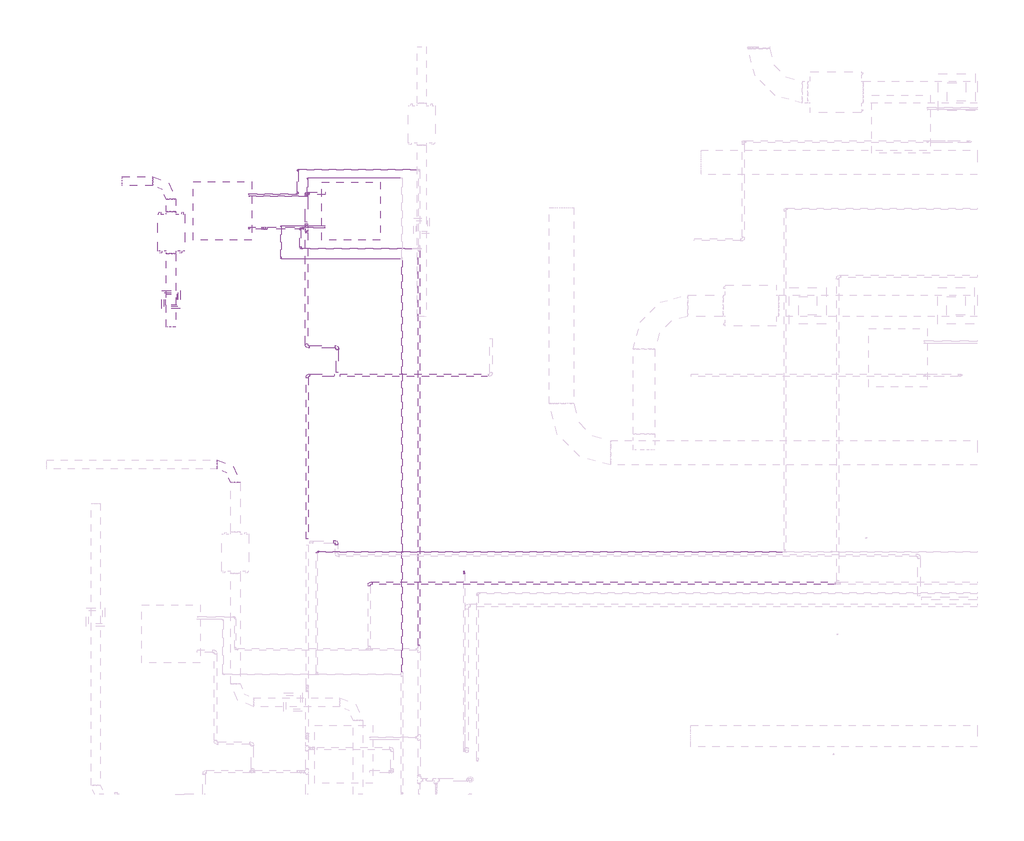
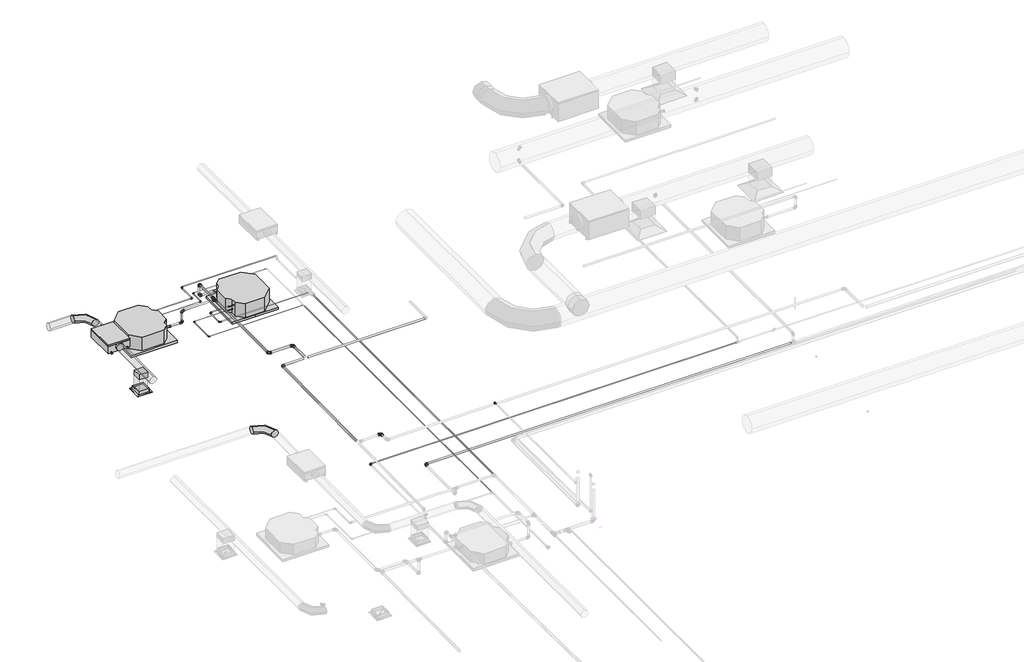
# One storey, part 13 of 21: 28 pipe fittings, 28 pipe segments, 4 duct fittings, 4 duct segments, 3 proxies, 1 air terminal.
"""IFC4 building model written with IfcOpenShell, lengths in millimetres."""

from ifc_helpers import new_model, si_unit, point, frame, frame_2d, origin, place, context, project, spatial, polyline, circle_curve, trimmed, segment, composite_curve, outline, extrude, transform, mapped, element, save
from components import sdq3535_a75e83f7, mechanical_equipment_53173f38, fh_fh_150_19aaf5c2, duct_fitting_bc26a891, duct_fitting_72ff0d78, duct_fitting_2_d_e46ba55a, pipe_fitting_e2d793b1, pipe_fitting_535881cf, pipe_fitting_3e2a63ee, pipe_fitting_144f4440, pipe_fitting_103655aa, pipe_fitting_63a2771b, pipe_fitting_ec53ccd8, pipe_fitting_d7de274c, pipe_fitting_65edd11d, pipe_fitting_c900cfc2, pipe_fitting_16c020f5, pipe_fitting_0e110a5f, pipe_fitting_64d0e8e9, pipe_fitting_59d1f3e3, pipe_fitting_648138cd

model = new_model("IFC4")

# Units and contexts
model_context = context("Model", 3, world=origin())
ifc_project = project(units=[si_unit("LENGTHUNIT", "METRE", prefix="MILLI")], contexts=[model_context])

# Site, building, storey
site = spatial("IfcSite", under=ifc_project)
building = spatial("IfcBuilding", under=site)
storey = spatial("IfcBuildingStorey", under=building, Name="Nível 1", Elevation=0.0)

# Air terminal
placement = place(None, origin())
sdq3535_shape = sdq3535_a75e83f7(model_context)
element("IfcAirTerminal", 1, ObjectType="11 - Difusor Quadrado : SDQ3535", at=placement, inside=storey, context=model_context, shape_type="MappedRepresentation", body=[
    mapped(sdq3535_shape, transform((-11373.3060551, 4782.3090494, 3000.0), x_axis=(-1.0, 0.0, 0.0), y_axis=(0.0, -1.0, 0.0), z_axis=(0.0, 0.0, 1.0))),
])

# Proxies
mechanical_equipment_shape = mechanical_equipment_53173f38(model_context)
element("IfcBuildingElementProxy", 2, Name="Midea_VRF_Indoor_4-way Cassette_MI-90(100,112,140)Q4_DHN1-D (2nd DC) : MI2-140Q4DHN1", ObjectType="Midea_VRF_Indoor_4-way Cassette_MI-90(100,112,140)Q4_DHN1-D (2nd DC) : MI2-140Q4DHN1", at=placement, inside=storey, context=model_context, shape_type="MappedRepresentation", body=[
    mapped(mechanical_equipment_shape, transform((-8436.7915174, 6227.977433, 3000.0), x_axis=(-1.0, 0.0, 0.0), y_axis=(0.0, -1.0, 0.0), z_axis=(0.0, 0.0, 1.0))),
])
element("IfcBuildingElementProxy", 3, Name="Midea_VRF_Indoor_4-way Cassette_MI-90(100,112,140)Q4_DHN1-D (2nd DC) : MI2-140Q4DHN1", ObjectType="Midea_VRF_Indoor_4-way Cassette_MI-90(100,112,140)Q4_DHN1-D (2nd DC) : MI2-140Q4DHN1", at=placement, inside=storey, context=model_context, shape_type="MappedRepresentation", body=[
    mapped(mechanical_equipment_shape, transform((-10533.2559835, 6231.5129669, 3000.0), x_axis=(1.0, 0.0, 0.0), y_axis=(0.0, 1.0, 0.0), z_axis=(0.0, 0.0, 1.0))),
])
fh_fh_150_shape = fh_fh_150_19aaf5c2(model_context)
element("IfcBuildingElementProxy", 4, Name="FH : FH 150", ObjectType="FH : FH 150", at=placement, inside=storey, context=model_context, shape_type="MappedRepresentation", body=[
    mapped(fh_fh_150_shape, transform((-11373.3060551, 5874.7087149, 3400.0), x_axis=(-1.0, 0.0, 0.0), y_axis=(0.0, -1.0, 0.0), z_axis=(0.0, 0.0, 1.0))),
])

# Duct fittings
duct_fitting_shape = duct_fitting_bc26a891(model_context)
element("IfcDuctFitting", 5, ObjectType="M_Encaixe de duto retangular : Padrão", at=placement, inside=storey, context=model_context, shape_type="MappedRepresentation", body=[
    mapped(duct_fitting_shape, transform((-11373.3060551, 4782.3090494, 3418.5), x_axis=(0.0, 0.0, -1.0), y_axis=(0.0, 1.0, 0.0), z_axis=(1.0, 0.0, 0.0))),
])
duct_fitting_2_shape = duct_fitting_72ff0d78(model_context)
element("IfcDuctFitting", 6, ObjectType="M_Transição retangular - Ângulo : 45 Graus", at=placement, inside=storey, context=model_context, shape_type="MappedRepresentation", body=[
    mapped(duct_fitting_2_shape, transform((-11373.3060551, 4782.3090494, 3005.0), x_axis=(0.0, 0.0, 1.0), y_axis=(0.0, -1.0, 0.0), z_axis=(1.0, 0.0, 0.0))),
])
duct_fitting_2_d_shape = duct_fitting_2_d_e46ba55a(model_context)
element("IfcDuctFitting", 7, ObjectType="M_Cotovelo redondo : 2 D", at=placement, inside=storey, context=model_context, shape_type="MappedRepresentation", body=[
    mapped(duct_fitting_2_d_shape, transform((-11373.3060551, 6716.7087149, 3493.0), x_axis=(0.0, 1.0, 0.0), y_axis=(-1.0, 0.0, 0.0), z_axis=(0.0, 0.0, 1.0))),
])
element("IfcDuctFitting", 8, ObjectType="M_Cotovelo redondo : 2 D", at=placement, inside=storey, context=model_context, shape_type="MappedRepresentation", body=[
    mapped(duct_fitting_2_d_shape, transform((-10322.9288653, 2093.5577969, 3493.0), x_axis=(0.0, 1.0, 0.0), y_axis=(-1.0, 0.0, 0.0), z_axis=(0.0, 0.0, 1.0))),
])

# Duct segments
element("IfcDuctSegment", 9, ObjectType="Torneiras / Raio curto", at=placement, inside=storey, context=model_context, shape_type="SweptSolid", body=[
    extrude(outline(composite_curve([segment(trimmed(circle_curve(frame_2d((3493.0, -11373.3060551)), 74.5), [point((3493.0, -11298.8060551))], [point((3567.5, -11373.3060551))], False, "CARTESIAN"), True, "CONTINUOUS"), segment(trimmed(circle_curve(frame_2d((3493.0, -11373.3060551)), 74.5), [point((3567.5, -11373.3060551))], [point((3493.0, -11447.8060551))], False, "CARTESIAN"), True, "CONTINUOUS"), segment(trimmed(circle_curve(frame_2d((3493.0, -11373.3060551)), 74.5), [point((3493.0, -11447.8060551))], [point((3418.5, -11373.3060551))], False, "CARTESIAN"), True, "CONTINUOUS"), segment(trimmed(circle_curve(frame_2d((3493.0, -11373.3060551)), 74.5), [point((3418.5, -11373.3060551))], [point((3493.0, -11298.8060551))], False, "CARTESIAN"), True, "CONTINUOUS")], self_intersect=False)), frame((0.0, 6216.7087149, 0.0), z_axis=(0.0, 1.0, 0.0), x_axis=(0.0, 0.0, 1.0)), (0.0, 0.0, 1.0), 202.0),
])
element("IfcDuctSegment", 10, ObjectType="Torneiras / Raio curto", at=placement, inside=storey, context=model_context, shape_type="SweptSolid", body=[
    extrude(outline(composite_curve([segment(trimmed(circle_curve(frame_2d((6716.7087149, 3493.0)), 74.5), [point((6791.2087149, 3493.0))], [point((6716.7087149, 3418.5))], False, "CARTESIAN"), True, "CONTINUOUS"), segment(trimmed(circle_curve(frame_2d((6716.7087149, 3493.0)), 74.5), [point((6716.7087149, 3418.5))], [point((6642.2087149, 3493.0))], False, "CARTESIAN"), True, "CONTINUOUS"), segment(trimmed(circle_curve(frame_2d((6716.7087149, 3493.0)), 74.5), [point((6642.2087149, 3493.0))], [point((6716.7087149, 3567.5))], False, "CARTESIAN"), True, "CONTINUOUS"), segment(trimmed(circle_curve(frame_2d((6716.7087149, 3493.0)), 74.5), [point((6716.7087149, 3567.5))], [point((6791.2087149, 3493.0))], False, "CARTESIAN"), True, "CONTINUOUS")], self_intersect=False)), frame((-12173.3060551, 0.0, 0.0), z_axis=(1.0, 0.0, 0.0), x_axis=(0.0, 1.0, 0.0)), (0.0, 0.0, 1.0), 502.0),
])
element("IfcDuctSegment", 11, ObjectType="Torneiras / Raio curto", at=placement, inside=storey, context=model_context, shape_type="SweptSolid", body=[
    extrude(outline(composite_curve([segment(trimmed(circle_curve(frame_2d((3493.0, -11373.3060551)), 74.5), [point((3493.0, -11447.8060551))], [point((3418.5, -11373.3060551))], False, "CARTESIAN"), True, "CONTINUOUS"), segment(trimmed(circle_curve(frame_2d((3493.0, -11373.3060551)), 74.5), [point((3418.5, -11373.3060551))], [point((3493.0, -11298.8060551))], False, "CARTESIAN"), True, "CONTINUOUS"), segment(trimmed(circle_curve(frame_2d((3493.0, -11373.3060551)), 74.5), [point((3493.0, -11298.8060551))], [point((3567.5, -11373.3060551))], False, "CARTESIAN"), True, "CONTINUOUS"), segment(trimmed(circle_curve(frame_2d((3493.0, -11373.3060551)), 74.5), [point((3567.5, -11373.3060551))], [point((3493.0, -11447.8060551))], False, "CARTESIAN"), True, "CONTINUOUS")], self_intersect=False)), frame((0.0, 4332.7087149, 0.0), z_axis=(0.0, 1.0, 0.0), x_axis=(0.0, 0.0, 1.0)), (0.0, 0.0, 1.0), 1200.0),
])
element("IfcDuctSegment", 12, ObjectType="Raios cotovelos / torneiras", at=placement, inside=storey, context=model_context, shape_type="SweptSolid", body=[
    extrude(outline(polyline([(-11463.3060551, 4692.3090494), (-11463.3060551, 4872.3090494), (-11283.3060551, 4872.3090494), (-11283.3060551, 4692.3090494), (-11463.3060551, 4692.3090494)])), frame((0.0, 0.0, 3059.3198052), z_axis=(0.0, 0.0, 1.0), x_axis=(1.0, 0.0, 0.0)), (0.0, 0.0, 1.0), 257.5801948),
])

# Pipe fittings
pipe_fitting_shape = pipe_fitting_e2d793b1(model_context)
element("IfcPipeFitting", 13, ObjectType="Bucha de redução reta - Soldada - CU : Padrão", at=placement, inside=storey, context=model_context, shape_type="MappedRepresentation", body=[
    mapped(pipe_fitting_shape, transform((-10108.2559835, 5946.5129669, 3252.3085101), x_axis=(1.0, 0.0, 0.0), y_axis=(0.0, 1.0, 0.0), z_axis=(0.0, 0.0, 1.0))),
])
pipe_fitting_2_shape = pipe_fitting_535881cf(model_context)
element("IfcPipeFitting", 14, ObjectType="Cotovelo - Soldado - CU : Padrão", at=placement, inside=storey, context=model_context, shape_type="MappedRepresentation", body=[
    mapped(pipe_fitting_2_shape, transform((-9153.185193, 3547.5971186, 3510.7989201), x_axis=(-1.0, 0.0, 0.0), y_axis=(0.0, -0.9999500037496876, -0.009999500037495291), z_axis=(0.0, -0.009999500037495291, 0.9999500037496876))),
])
element("IfcPipeFitting", 15, ObjectType="Cotovelo - Soldado - CU : Padrão", at=placement, inside=storey, context=model_context, shape_type="MappedRepresentation", body=[
    mapped(pipe_fitting_2_shape, transform((-9848.2559836, 5946.5129669, 3508.3991601), x_axis=(0.0, 0.0, 1.0), y_axis=(1.0, 0.0, 0.0), z_axis=(0.0, 1.0, 0.0))),
])
pipe_fitting_3_shape = pipe_fitting_3e2a63ee(model_context)
element("IfcPipeFitting", 16, ObjectType="Tê - Soldado - CU : Padrão", at=placement, inside=storey, context=model_context, shape_type="MappedRepresentation", body=[
    mapped(pipe_fitting_3_shape, transform((-9161.7915172, 5946.5129669, 3508.3991601), x_axis=(0.0, 1.0, 0.0), y_axis=(1.0, 0.0, 0.0), z_axis=(0.0, 0.0, -1.0))),
])
pipe_fitting_4_shape = pipe_fitting_144f4440(model_context)
element("IfcPipeFitting", 17, ObjectType="Cotovelo - PVC - CW : Padrão", at=placement, inside=storey, context=model_context, shape_type="MappedRepresentation", body=[
    mapped(pipe_fitting_4_shape, transform((-9161.7915172, 6512.977433, 3508.3991601), x_axis=(0.0, 0.0, 1.0), y_axis=(0.0, -1.0, 0.0), z_axis=(1.0, 0.0, 0.0))),
])
element("IfcPipeFitting", 18, ObjectType="Cotovelo - PVC - CW : Padrão", at=placement, inside=storey, context=model_context, shape_type="MappedRepresentation", body=[
    mapped(pipe_fitting_4_shape, transform((-9161.7915172, 4012.977433, 3508.3991601), x_axis=(0.0, -1.0, 0.0), y_axis=(1.0, 0.0, 0.0), z_axis=(0.0, 0.0, 1.0))),
])
element("IfcPipeFitting", 19, ObjectType="Cotovelo - PVC - CW : Padrão", at=placement, inside=storey, context=model_context, shape_type="MappedRepresentation", body=[
    mapped(pipe_fitting_4_shape, transform((-8661.7915172, 4012.977433, 3508.3991601), x_axis=(0.0, 1.0, 0.0), y_axis=(-1.0, 0.0, 0.0), z_axis=(0.0, 0.0, 1.0))),
])
element("IfcPipeFitting", 20, ObjectType="Cotovelo - PVC - CW : Padrão", at=placement, inside=storey, context=model_context, shape_type="MappedRepresentation", body=[
    mapped(pipe_fitting_4_shape, transform((-8672.0832008, 826.0615245, 3500.4499775), x_axis=(0.0, 1.0, 0.0), y_axis=(-0.9987552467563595, 0.0, -0.04987942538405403), z_axis=(-0.04987942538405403, 0.0, 0.9987552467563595))),
])
pipe_fitting_5_shape = pipe_fitting_103655aa(model_context)
element("IfcPipeFitting", 21, ObjectType="Cotovelo - PVC - CW : Padrão", at=placement, inside=storey, context=model_context, shape_type="MappedRepresentation", body=[
    mapped(pipe_fitting_5_shape, transform((-9161.7915172, 6512.977433, 3252.3), x_axis=(-0.9999999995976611, 0.0, -2.8366844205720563e-05), y_axis=(-2.8366844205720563e-05, 0.0, 0.9999999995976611), z_axis=(0.0, 1.0, 0.0))),
])
pipe_fitting_6_shape = pipe_fitting_63a2771b(model_context)
element("IfcPipeFitting", 22, ObjectType="Cotovelo - Soldado - CU : Padrão", at=placement, inside=storey, context=model_context, shape_type="MappedRepresentation", body=[
    mapped(pipe_fitting_6_shape, transform((-9848.2559836, 5946.5129669, 3252.3), x_axis=(0.9999999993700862, 0.0, -3.5494049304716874e-05), y_axis=(3.5494049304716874e-05, 0.0, 0.9999999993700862), z_axis=(0.0, -1.0, 0.0))),
])
pipe_fitting_7_shape = pipe_fitting_ec53ccd8(model_context)
element("IfcPipeFitting", 23, ObjectType="Bucha de redução reta - Soldada - CU : Padrão", at=placement, inside=storey, context=model_context, shape_type="MappedRepresentation", body=[
    mapped(pipe_fitting_7_shape, transform((-9161.7915172, 5899.7629669, 3505.9994001), x_axis=(0.0, -1.0, 0.0), y_axis=(1.0, 0.0, 0.0), z_axis=(0.0, 0.0, 1.0))),
])
pipe_fitting_8_shape = pipe_fitting_d7de274c(model_context)
element("IfcPipeFitting", 24, ObjectType="Redutor de acoplamento - PVC - CW : Padrão", at=placement, inside=storey, context=model_context, shape_type="MappedRepresentation", body=[
    mapped(pipe_fitting_8_shape, transform((-9161.7915172, 5993.2629669, 3508.3991601), x_axis=(0.0, 1.0, 0.0), y_axis=(-1.0, 0.0, 0.0), z_axis=(0.0, 0.0, 1.0))),
])
pipe_fitting_9_shape = pipe_fitting_65edd11d(model_context)
element("IfcPipeFitting", 25, ObjectType="Cotovelo - Soldado - CU : Padrão", at=placement, inside=storey, context=model_context, shape_type="MappedRepresentation", body=[
    mapped(pipe_fitting_9_shape, transform((-8139.9913078, 153.7608365, 3052.3), x_axis=(-1.0, 0.0, 0.0), y_axis=(0.0, -1.0, 0.0), z_axis=(0.0, 0.0, 1.0))),
])
pipe_fitting_10_shape = pipe_fitting_c900cfc2(model_context)
element("IfcPipeFitting", 26, ObjectType="Bucha de redução reta - Soldada - CU : Padrão", at=placement, inside=storey, context=model_context, shape_type="MappedRepresentation", body=[
    mapped(pipe_fitting_10_shape, transform((-8861.7915174, 5954.7666194, 3252.3085101), x_axis=(-1.0, 0.0, 0.0), y_axis=(0.0, -1.0, 0.0), z_axis=(0.0, 0.0, 1.0))),
])
element("IfcPipeFitting", 27, ObjectType="Bucha de redução reta - Soldada - CU : Padrão", at=placement, inside=storey, context=model_context, shape_type="MappedRepresentation", body=[
    mapped(pipe_fitting_10_shape, transform((-10108.2559835, 6504.7237806, 3252.3085101), x_axis=(1.0, 0.0, 0.0), y_axis=(0.0, 1.0, 0.0), z_axis=(0.0, 0.0, 1.0))),
])
pipe_fitting_11_shape = pipe_fitting_16c020f5(model_context)
element("IfcPipeFitting", 28, ObjectType="Cotovelo - Soldado - CU : Padrão", at=placement, inside=storey, context=model_context, shape_type="MappedRepresentation", body=[
    mapped(pipe_fitting_11_shape, transform((-6589.5432355, 348.015561, 3752.3), x_axis=(0.0, 0.0, 1.0), y_axis=(0.0, -1.0, 0.0), z_axis=(1.0, 0.0, 0.0))),
])
element("IfcPipeFitting", 29, ObjectType="Cotovelo - Soldado - CU : Padrão", at=placement, inside=storey, context=model_context, shape_type="MappedRepresentation", body=[
    mapped(pipe_fitting_11_shape, transform((-9261.7915173, 5954.7666194, 3252.3), x_axis=(-0.99999999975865, 0.0, -2.1970437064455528e-05), y_axis=(0.0, -1.0, 0.0), z_axis=(-2.1970437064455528e-05, 0.0, 0.99999999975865))),
])
element("IfcPipeFitting", 30, ObjectType="Cotovelo - Soldado - CU : Padrão", at=placement, inside=storey, context=model_context, shape_type="MappedRepresentation", body=[
    mapped(pipe_fitting_11_shape, transform((-9308.2559835, 6504.7237806, 3252.3), x_axis=(0.9999999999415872, 0.0, -1.0808597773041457e-05), y_axis=(0.0, 1.0000000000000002, 0.0), z_axis=(1.0808597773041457e-05, 0.0, 0.9999999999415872))),
])
element("IfcPipeFitting", 31, ObjectType="Cotovelo - Soldado - CU : Padrão", at=placement, inside=storey, context=model_context, shape_type="MappedRepresentation", body=[
    mapped(pipe_fitting_11_shape, transform((-9261.7915173, 5614.7666194, 3252.3), x_axis=(0.0, -1.0, 0.0), y_axis=(1.0, 0.0, 0.0), z_axis=(0.0, 0.0, 1.0))),
])
element("IfcPipeFitting", 32, ObjectType="Cotovelo - Soldado - CU : Padrão", at=placement, inside=storey, context=model_context, shape_type="MappedRepresentation", body=[
    mapped(pipe_fitting_11_shape, transform((-9308.2559835, 6904.7237806, 3252.3), x_axis=(-1.0, 0.0, 0.0), y_axis=(0.0, -1.0, 0.0), z_axis=(0.0, 0.0, 1.0))),
])
pipe_fitting_12_shape = pipe_fitting_0e110a5f(model_context)
element("IfcPipeFitting", 33, ObjectType="Cotovelo - Soldado - CU : Padrão", at=placement, inside=storey, context=model_context, shape_type="MappedRepresentation", body=[
    mapped(pipe_fitting_12_shape, transform((-8993.7078452, 666.0796084, 3046.8), x_axis=(-1.0, 0.0, 0.0), y_axis=(0.0, -1.0, 0.0), z_axis=(0.0, 0.0, 1.0))),
])
pipe_fitting_13_shape = pipe_fitting_64d0e8e9(model_context)
element("IfcPipeFitting", 34, ObjectType="Bucha de redução reta - Soldada - CU : Padrão", at=placement, inside=storey, context=model_context, shape_type="MappedRepresentation", body=[
    mapped(pipe_fitting_13_shape, transform((-6589.5432355, 319.036961, 3752.3), x_axis=(0.0, -1.0, 0.0), y_axis=(1.0, 0.0, 0.0), z_axis=(0.0, 0.0, 1.0))),
])
pipe_fitting_14_shape = pipe_fitting_59d1f3e3(model_context)
element("IfcPipeFitting", 35, ObjectType="Bucha de redução reta - Soldada - CU : Padrão", at=placement, inside=storey, context=model_context, shape_type="MappedRepresentation", body=[
    mapped(pipe_fitting_14_shape, transform((-8861.7915174, 5988.5690612, 3146.8446487), x_axis=(-1.0, 0.0, 0.0), y_axis=(0.0, -1.0, 0.0), z_axis=(0.0, 0.0, 1.0))),
])
element("IfcPipeFitting", 36, ObjectType="Bucha de redução reta - Soldada - CU : Padrão", at=placement, inside=storey, context=model_context, shape_type="MappedRepresentation", body=[
    mapped(pipe_fitting_14_shape, transform((-10108.2559835, 6470.9213388, 3146.8446487), x_axis=(1.0, 0.0, 0.0), y_axis=(0.0, 1.0, 0.0), z_axis=(0.0, 0.0, 1.0))),
])
pipe_fitting_15_shape = pipe_fitting_648138cd(model_context)
element("IfcPipeFitting", 37, ObjectType="Cotovelo - Soldado - CU : Padrão", at=placement, inside=storey, context=model_context, shape_type="MappedRepresentation", body=[
    mapped(pipe_fitting_15_shape, transform((-9581.791516, 5988.5690612, 3146.8), x_axis=(-0.9999999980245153, 0.0, -6.285673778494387e-05), y_axis=(0.0, -1.0000000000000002, 0.0), z_axis=(-6.285673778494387e-05, 0.0, 0.9999999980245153))),
])
element("IfcPipeFitting", 38, ObjectType="Cotovelo - Soldado - CU : Padrão", at=placement, inside=storey, context=model_context, shape_type="MappedRepresentation", body=[
    mapped(pipe_fitting_15_shape, transform((-9581.791516, 5448.5690612, 3146.8), x_axis=(0.0, -1.0, 0.0), y_axis=(0.9999999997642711, 0.0, 2.1713079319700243e-05), z_axis=(-2.1713079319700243e-05, 0.0, 0.9999999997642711))),
])
element("IfcPipeFitting", 39, ObjectType="Cotovelo - Soldado - CU : Padrão", at=placement, inside=storey, context=model_context, shape_type="MappedRepresentation", body=[
    mapped(pipe_fitting_15_shape, transform((-9148.2559845, 6470.9213388, 3146.8), x_axis=(0.9999999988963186, 0.0, -4.698258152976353e-05), y_axis=(0.0, 1.0000000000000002, 0.0), z_axis=(4.698258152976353e-05, 0.0, 0.9999999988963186))),
])
element("IfcPipeFitting", 40, ObjectType="Cotovelo - Soldado - CU : Padrão", at=placement, inside=storey, context=model_context, shape_type="MappedRepresentation", body=[
    mapped(pipe_fitting_15_shape, transform((-9148.2559845, 6770.9213388, 3146.8), x_axis=(-1.0, 0.0, 0.0), y_axis=(0.0, -1.0, 0.0), z_axis=(0.0, 0.0, 1.0))),
])

# Pipe segments
element("IfcPipeSegment", 41, ObjectType="Tubos de cobre HVAC", at=placement, inside=storey, context=model_context, shape_type="SweptSolid", body=[
    extrude(outline(composite_curve([segment(trimmed(circle_curve(frame_2d((3547.5971186, 3510.7989201)), 17.5), [point((3530.0971186, 3510.7989201))], [point((3547.5971186, 3528.2989201))], False, "CARTESIAN"), True, "CONTINUOUS"), segment(trimmed(circle_curve(frame_2d((3547.5971186, 3510.7989201)), 17.5), [point((3547.5971186, 3528.2989201))], [point((3565.0971186, 3510.7989201))], False, "CARTESIAN"), True, "CONTINUOUS"), segment(trimmed(circle_curve(frame_2d((3547.5971186, 3510.7989201)), 17.5), [point((3565.0971186, 3510.7989201))], [point((3547.5971186, 3493.2989201))], False, "CARTESIAN"), True, "CONTINUOUS"), segment(trimmed(circle_curve(frame_2d((3547.5971186, 3510.7989201)), 17.5), [point((3547.5971186, 3493.2989201))], [point((3530.0971186, 3510.7989201))], False, "CARTESIAN"), True, "CONTINUOUS")], self_intersect=False)), frame((-8615.8900172, 0.0, 0.0), z_axis=(1.0, 0.0, 0.0), x_axis=(0.0, 1.0, 0.0)), (0.0, 0.0, 1.0), 2421.1048242),
])
element("IfcPipeSegment", 42, ObjectType="Tubos de cobre HVAC", at=placement, inside=storey, context=model_context, shape_type="SweptSolid", body=[
    extrude(outline(composite_curve([segment(trimmed(circle_curve(frame_2d((0.0, 17.5)), 17.5), [point((17.5, 17.5))], [point((0.0, 0.0))], False, "CARTESIAN"), True, "CONTINUOUS"), segment(trimmed(circle_curve(frame_2d((0.0, 17.5)), 17.5), [point((0.0, 0.0))], [point((-17.5, 17.5))], False, "CARTESIAN"), True, "CONTINUOUS"), segment(trimmed(circle_curve(frame_2d((0.0, 17.5)), 17.5), [point((-17.5, 17.5))], [point((0.0, 35.0))], False, "CARTESIAN"), True, "CONTINUOUS"), segment(trimmed(circle_curve(frame_2d((0.0, 17.5)), 17.5), [point((0.0, 35.0))], [point((17.5, 17.5))], False, "CARTESIAN"), True, "CONTINUOUS")], self_intersect=False)), frame((-9153.185193, 871.7857384, 3501.5416813), z_axis=(0.0, 0.9999500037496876, 0.009999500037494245), x_axis=(1.0, 0.0, 0.0)), (0.0, 0.0, 1.0), 2634.1701675),
])
element("IfcPipeSegment", 43, ObjectType="Plástico", at=placement, inside=storey, context=model_context, shape_type="SweptSolid", body=[
    extrude(outline(composite_curve([segment(trimmed(circle_curve(frame_2d((0.0, -20.0)), 20.0), [point((-20.0, -20.0))], [point((0.0, 0.0))], False, "CARTESIAN"), True, "CONTINUOUS"), segment(trimmed(circle_curve(frame_2d((0.0, -20.0)), 20.0), [point((0.0, 0.0))], [point((20.0, -20.0))], False, "CARTESIAN"), True, "CONTINUOUS"), segment(trimmed(circle_curve(frame_2d((0.0, -20.0)), 20.0), [point((20.0, -20.0))], [point((0.0, -40.0))], False, "CARTESIAN"), True, "CONTINUOUS"), segment(trimmed(circle_curve(frame_2d((0.0, -20.0)), 20.0), [point((0.0, -40.0))], [point((-20.0, -20.0))], False, "CARTESIAN"), True, "CONTINUOUS")], self_intersect=False)), frame((-9116.7902975, 6512.977433, 3232.3012765), z_axis=(0.9999999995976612, 0.0, 2.8366844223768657e-05), x_axis=(0.0, -1.0, 0.0)), (0.0, 0.0, 1.0), 254.9993476),
])
element("IfcPipeSegment", 44, ObjectType="Plástico", at=placement, inside=storey, context=model_context, shape_type="SweptSolid", body=[
    extrude(outline(composite_curve([segment(trimmed(circle_curve(frame_2d((-9161.7915172, 6512.977433)), 20.0), [point((-9141.7915172, 6512.977433))], [point((-9161.7915172, 6492.977433))], False, "CARTESIAN"), True, "CONTINUOUS"), segment(trimmed(circle_curve(frame_2d((-9161.7915172, 6512.977433)), 20.0), [point((-9161.7915172, 6492.977433))], [point((-9181.7915172, 6512.977433))], False, "CARTESIAN"), True, "CONTINUOUS"), segment(trimmed(circle_curve(frame_2d((-9161.7915172, 6512.977433)), 20.0), [point((-9181.7915172, 6512.977433))], [point((-9161.7915172, 6532.977433))], False, "CARTESIAN"), True, "CONTINUOUS"), segment(trimmed(circle_curve(frame_2d((-9161.7915172, 6512.977433)), 20.0), [point((-9161.7915172, 6532.977433))], [point((-9141.7915172, 6512.977433))], False, "CARTESIAN"), True, "CONTINUOUS")], self_intersect=False)), frame((0.0, 0.0, 3297.3006524), z_axis=(0.0, 0.0, 1.0), x_axis=(1.0, 0.0, 0.0)), (0.0, 0.0, 1.0), 166.0985076),
])
element("IfcPipeSegment", 45, ObjectType="Plástico", at=placement, inside=storey, context=model_context, shape_type="SweptSolid", body=[
    extrude(outline(composite_curve([segment(trimmed(circle_curve(frame_2d((3508.3991601, -9161.7915172)), 20.0), [point((3508.3991601, -9181.7915172))], [point((3488.3991601, -9161.7915172))], False, "CARTESIAN"), True, "CONTINUOUS"), segment(trimmed(circle_curve(frame_2d((3508.3991601, -9161.7915172)), 20.0), [point((3488.3991601, -9161.7915172))], [point((3508.3991601, -9141.7915172))], False, "CARTESIAN"), True, "CONTINUOUS"), segment(trimmed(circle_curve(frame_2d((3508.3991601, -9161.7915172)), 20.0), [point((3508.3991601, -9141.7915172))], [point((3528.3991601, -9161.7915172))], False, "CARTESIAN"), True, "CONTINUOUS"), segment(trimmed(circle_curve(frame_2d((3508.3991601, -9161.7915172)), 20.0), [point((3528.3991601, -9161.7915172))], [point((3508.3991601, -9181.7915172))], False, "CARTESIAN"), True, "CONTINUOUS")], self_intersect=False)), frame((0.0, 4057.977433, 0.0), z_axis=(0.0, 1.0, 0.0), x_axis=(0.0, 0.0, 1.0)), (0.0, 0.0, 1.0), 1821.5455339),
])
element("IfcPipeSegment", 46, ObjectType="Plástico", at=placement, inside=storey, context=model_context, shape_type="SweptSolid", body=[
    extrude(outline(composite_curve([segment(trimmed(circle_curve(frame_2d((4012.977433, 3508.3991601)), 20.0), [point((3992.977433, 3508.3991601))], [point((4012.977433, 3528.3991601))], False, "CARTESIAN"), True, "CONTINUOUS"), segment(trimmed(circle_curve(frame_2d((4012.977433, 3508.3991601)), 20.0), [point((4012.977433, 3528.3991601))], [point((4032.977433, 3508.3991601))], False, "CARTESIAN"), True, "CONTINUOUS"), segment(trimmed(circle_curve(frame_2d((4012.977433, 3508.3991601)), 20.0), [point((4032.977433, 3508.3991601))], [point((4012.977433, 3488.3991601))], False, "CARTESIAN"), True, "CONTINUOUS"), segment(trimmed(circle_curve(frame_2d((4012.977433, 3508.3991601)), 20.0), [point((4012.977433, 3488.3991601))], [point((3992.977433, 3508.3991601))], False, "CARTESIAN"), True, "CONTINUOUS")], self_intersect=False)), frame((-9116.7915172, 0.0, 0.0), z_axis=(1.0, 0.0, 0.0), x_axis=(0.0, 1.0, 0.0)), (0.0, 0.0, 1.0), 410.0),
])
element("IfcPipeSegment", 47, ObjectType="Plástico", at=placement, inside=storey, context=model_context, shape_type="SweptSolid", body=[
    extrude(outline(composite_curve([segment(trimmed(circle_curve(frame_2d((3508.3991601, -8661.7915172)), 20.0), [point((3508.3991601, -8641.7915172))], [point((3528.3991601, -8661.7915172))], False, "CARTESIAN"), True, "CONTINUOUS"), segment(trimmed(circle_curve(frame_2d((3508.3991601, -8661.7915172)), 20.0), [point((3528.3991601, -8661.7915172))], [point((3508.3991601, -8681.7915172))], False, "CARTESIAN"), True, "CONTINUOUS"), segment(trimmed(circle_curve(frame_2d((3508.3991601, -8661.7915172)), 20.0), [point((3508.3991601, -8681.7915172))], [point((3488.3991601, -8661.7915172))], False, "CARTESIAN"), True, "CONTINUOUS"), segment(trimmed(circle_curve(frame_2d((3508.3991601, -8661.7915172)), 20.0), [point((3488.3991601, -8661.7915172))], [point((3508.3991601, -8641.7915172))], False, "CARTESIAN"), True, "CONTINUOUS")], self_intersect=False)), frame((0.0, 3593.0711162, 0.0), z_axis=(0.0, 1.0, 0.0), x_axis=(0.0, 0.0, 1.0)), (0.0, 0.0, 1.0), 374.9063168),
])
element("IfcPipeSegment", 48, ObjectType="Tubos de cobre HVAC", at=placement, inside=storey, context=model_context, shape_type="SweptSolid", body=[
    extrude(outline(composite_curve([segment(trimmed(circle_curve(frame_2d((3547.5971186, 3510.7989201)), 17.5), [point((3530.0971186, 3510.7989201))], [point((3547.5971186, 3528.2989201))], False, "CARTESIAN"), True, "CONTINUOUS"), segment(trimmed(circle_curve(frame_2d((3547.5971186, 3510.7989201)), 17.5), [point((3547.5971186, 3528.2989201))], [point((3565.0971186, 3510.7989201))], False, "CARTESIAN"), True, "CONTINUOUS"), segment(trimmed(circle_curve(frame_2d((3547.5971186, 3510.7989201)), 17.5), [point((3565.0971186, 3510.7989201))], [point((3547.5971186, 3493.2989201))], False, "CARTESIAN"), True, "CONTINUOUS"), segment(trimmed(circle_curve(frame_2d((3547.5971186, 3510.7989201)), 17.5), [point((3547.5971186, 3493.2989201))], [point((3530.0971186, 3510.7989201))], False, "CARTESIAN"), True, "CONTINUOUS")], self_intersect=False)), frame((-9111.585193, 0.0, 0.0), z_axis=(1.0, 0.0, 0.0), x_axis=(0.0, 1.0, 0.0)), (0.0, 0.0, 1.0), 403.8921758),
])
element("IfcPipeSegment", 49, ObjectType="Tubos de cobre HVAC", at=placement, inside=storey, context=model_context, shape_type="SweptSolid", body=[
    extrude(outline(composite_curve([segment(trimmed(circle_curve(frame_2d((0.0, -17.5)), 17.5), [point((-17.5, -17.5))], [point((0.0, 0.0))], False, "CARTESIAN"), True, "CONTINUOUS"), segment(trimmed(circle_curve(frame_2d((0.0, -17.5)), 17.5), [point((0.0, 0.0))], [point((17.5, -17.5))], False, "CARTESIAN"), True, "CONTINUOUS"), segment(trimmed(circle_curve(frame_2d((0.0, -17.5)), 17.5), [point((17.5, -17.5))], [point((0.0, -34.9999999))], False, "CARTESIAN"), True, "CONTINUOUS"), segment(trimmed(circle_curve(frame_2d((0.0, -17.5)), 17.5), [point((0.0, -34.9999999))], [point((-17.5, -17.5))], False, "CARTESIAN"), True, "CONTINUOUS")], self_intersect=False)), frame((-9889.8566047, 5946.5129669, 3234.8014766), z_axis=(-0.9999999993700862, 0.0, 3.549404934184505e-05), x_axis=(0.0, 1.0, 0.0)), (0.0, 0.0, 1.0), 198.16),
])
element("IfcPipeSegment", 50, ObjectType="Tubos de cobre HVAC", at=placement, inside=storey, context=model_context, shape_type="SweptSolid", body=[
    extrude(outline(composite_curve([segment(trimmed(circle_curve(frame_2d((-9848.2559836, 5946.5129669)), 17.5), [point((-9830.7559836, 5946.5129669))], [point((-9848.2559836, 5929.0129669))], False, "CARTESIAN"), True, "CONTINUOUS"), segment(trimmed(circle_curve(frame_2d((-9848.2559836, 5946.5129669)), 17.5), [point((-9848.2559836, 5929.0129669))], [point((-9865.7559836, 5946.5129669))], False, "CARTESIAN"), True, "CONTINUOUS"), segment(trimmed(circle_curve(frame_2d((-9848.2559836, 5946.5129669)), 17.5), [point((-9865.7559836, 5946.5129669))], [point((-9848.2559836, 5964.0129669))], False, "CARTESIAN"), True, "CONTINUOUS"), segment(trimmed(circle_curve(frame_2d((-9848.2559836, 5946.5129669)), 17.5), [point((-9848.2559836, 5964.0129669))], [point((-9830.7559836, 5946.5129669))], False, "CARTESIAN"), True, "CONTINUOUS")], self_intersect=False)), frame((0.0, 0.0, 3293.9), z_axis=(0.0, 0.0, 1.0), x_axis=(1.0, 0.0, 0.0)), (0.0, 0.0, 1.0), 172.8991601),
])
element("IfcPipeSegment", 51, ObjectType="Tubos de cobre HVAC", at=placement, inside=storey, context=model_context, shape_type="SweptSolid", body=[
    extrude(outline(composite_curve([segment(trimmed(circle_curve(frame_2d((5946.5129669, 3508.3991601)), 17.5), [point((5964.0129669, 3508.3991601))], [point((5946.5129669, 3490.8991601))], False, "CARTESIAN"), True, "CONTINUOUS"), segment(trimmed(circle_curve(frame_2d((5946.5129669, 3508.3991601)), 17.5), [point((5946.5129669, 3490.8991601))], [point((5929.0129669, 3508.3991601))], False, "CARTESIAN"), True, "CONTINUOUS"), segment(trimmed(circle_curve(frame_2d((5946.5129669, 3508.3991601)), 17.5), [point((5929.0129669, 3508.3991601))], [point((5946.5129669, 3525.8991601))], False, "CARTESIAN"), True, "CONTINUOUS"), segment(trimmed(circle_curve(frame_2d((5946.5129669, 3508.3991601)), 17.5), [point((5946.5129669, 3525.8991601))], [point((5964.0129669, 3508.3991601))], False, "CARTESIAN"), True, "CONTINUOUS")], self_intersect=False)), frame((-9806.6559836, 0.0, 0.0), z_axis=(1.0, 0.0, 0.0), x_axis=(0.0, 1.0, 0.0)), (0.0, 0.0, 1.0), 599.3644664),
])
element("IfcPipeSegment", 52, ObjectType="Plástico", at=placement, inside=storey, context=model_context, shape_type="SweptSolid", body=[
    extrude(outline(composite_curve([segment(trimmed(circle_curve(frame_2d((3508.3991601, -9161.7915172)), 20.0), [point((3508.3991601, -9181.7915172))], [point((3488.3991601, -9161.7915172))], False, "CARTESIAN"), True, "CONTINUOUS"), segment(trimmed(circle_curve(frame_2d((3508.3991601, -9161.7915172)), 20.0), [point((3488.3991601, -9161.7915172))], [point((3508.3991601, -9141.7915172))], False, "CARTESIAN"), True, "CONTINUOUS"), segment(trimmed(circle_curve(frame_2d((3508.3991601, -9161.7915172)), 20.0), [point((3508.3991601, -9141.7915172))], [point((3528.3991601, -9161.7915172))], False, "CARTESIAN"), True, "CONTINUOUS"), segment(trimmed(circle_curve(frame_2d((3508.3991601, -9161.7915172)), 20.0), [point((3528.3991601, -9161.7915172))], [point((3508.3991601, -9181.7915172))], False, "CARTESIAN"), True, "CONTINUOUS")], self_intersect=False)), frame((0.0, 6047.8289669, 0.0), z_axis=(0.0, 1.0, 0.0), x_axis=(0.0, 0.0, 1.0)), (0.0, 0.0, 1.0), 420.1484661),
])
element("IfcPipeSegment", 53, ObjectType="Tubos de cobre HVAC", at=placement, inside=storey, context=model_context, shape_type="SweptSolid", body=[
    extrude(outline(composite_curve([segment(trimmed(circle_curve(frame_2d((0.0, -7.935)), 7.935), [point((-7.935, -7.935))], [point((0.0, 0.0))], False, "CARTESIAN"), True, "CONTINUOUS"), segment(trimmed(circle_curve(frame_2d((0.0, -7.935)), 7.935), [point((0.0, 0.0))], [point((7.935, -7.935))], False, "CARTESIAN"), True, "CONTINUOUS"), segment(trimmed(circle_curve(frame_2d((0.0, -7.935)), 7.935), [point((7.935, -7.935))], [point((0.0, -15.87))], False, "CARTESIAN"), True, "CONTINUOUS"), segment(trimmed(circle_curve(frame_2d((0.0, -7.935)), 7.935), [point((0.0, -15.87))], [point((-7.935, -7.935))], False, "CARTESIAN"), True, "CONTINUOUS")], self_intersect=False)), frame((-9232.8127429, 5954.7666194, 3244.3656367), z_axis=(0.99999999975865, 0.0, 2.197043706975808e-05), x_axis=(0.0, -1.0, 0.0)), (0.0, 0.0, 1.0), 358.3625),
])
element("IfcPipeSegment", 54, ObjectType="Tubos de cobre HVAC", at=placement, inside=storey, context=model_context, shape_type="SweptSolid", body=[
    extrude(outline(composite_curve([segment(trimmed(circle_curve(frame_2d((3252.3, -9261.7915173)), 7.935), [point((3252.3, -9269.7265173))], [point((3244.365, -9261.7915173))], False, "CARTESIAN"), True, "CONTINUOUS"), segment(trimmed(circle_curve(frame_2d((3252.3, -9261.7915173)), 7.935), [point((3244.365, -9261.7915173))], [point((3252.3, -9253.8565173))], False, "CARTESIAN"), True, "CONTINUOUS"), segment(trimmed(circle_curve(frame_2d((3252.3, -9261.7915173)), 7.935), [point((3252.3, -9253.8565173))], [point((3260.235, -9261.7915173))], False, "CARTESIAN"), True, "CONTINUOUS"), segment(trimmed(circle_curve(frame_2d((3252.3, -9261.7915173)), 7.935), [point((3260.235, -9261.7915173))], [point((3252.3, -9269.7265173))], False, "CARTESIAN"), True, "CONTINUOUS")], self_intersect=False)), frame((0.0, 5643.7452194, 0.0), z_axis=(0.0, 1.0, 0.0), x_axis=(0.0, 0.0, 1.0)), (0.0, 0.0, 1.0), 282.0428),
])
element("IfcPipeSegment", 55, ObjectType="Tubos de cobre HVAC", at=placement, inside=storey, context=model_context, shape_type="SweptSolid", body=[
    extrude(outline(composite_curve([segment(trimmed(circle_curve(frame_2d((5614.7666194, 3252.3)), 7.935), [point((5606.8316194, 3252.3))], [point((5614.7666194, 3260.235))], False, "CARTESIAN"), True, "CONTINUOUS"), segment(trimmed(circle_curve(frame_2d((5614.7666194, 3252.3)), 7.935), [point((5614.7666194, 3260.235))], [point((5622.7016194, 3252.3))], False, "CARTESIAN"), True, "CONTINUOUS"), segment(trimmed(circle_curve(frame_2d((5614.7666194, 3252.3)), 7.935), [point((5622.7016194, 3252.3))], [point((5614.7666194, 3244.365))], False, "CARTESIAN"), True, "CONTINUOUS"), segment(trimmed(circle_curve(frame_2d((5614.7666194, 3252.3)), 7.935), [point((5614.7666194, 3244.365))], [point((5606.8316194, 3252.3))], False, "CARTESIAN"), True, "CONTINUOUS")], self_intersect=False)), frame((-9232.8129173, 0.0, 0.0), z_axis=(1.0, 0.0, 0.0), x_axis=(0.0, 1.0, 0.0)), (0.0, 0.0, 1.0), 1804.2177869),
])
element("IfcPipeSegment", 56, ObjectType="Tubos de cobre HVAC", at=placement, inside=storey, context=model_context, shape_type="SweptSolid", body=[
    extrude(outline(composite_curve([segment(trimmed(circle_curve(frame_2d((0.0, -7.935)), 7.935), [point((-7.935, -7.935))], [point((0.0, 0.0))], False, "CARTESIAN"), True, "CONTINUOUS"), segment(trimmed(circle_curve(frame_2d((0.0, -7.935)), 7.935), [point((0.0, 0.0))], [point((7.935, -7.935))], False, "CARTESIAN"), True, "CONTINUOUS"), segment(trimmed(circle_curve(frame_2d((0.0, -7.935)), 7.935), [point((7.935, -7.935))], [point((0.0, -15.87))], False, "CARTESIAN"), True, "CONTINUOUS"), segment(trimmed(circle_curve(frame_2d((0.0, -7.935)), 7.935), [point((0.0, -15.87))], [point((-7.935, -7.935))], False, "CARTESIAN"), True, "CONTINUOUS")], self_intersect=False)), frame((-9337.2346693, 6504.7237806, 3244.3653132), z_axis=(-0.9999999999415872, 0.0, 1.080859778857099e-05), x_axis=(0.0, 1.0, 0.0)), (0.0, 0.0, 1.0), 758.3625),
])
element("IfcPipeSegment", 57, ObjectType="Tubos de cobre HVAC", at=placement, inside=storey, context=model_context, shape_type="SweptSolid", body=[
    extrude(outline(composite_curve([segment(trimmed(circle_curve(frame_2d((3252.3, -9308.2559835)), 7.935), [point((3252.3, -9300.3209835))], [point((3260.235, -9308.2559835))], False, "CARTESIAN"), True, "CONTINUOUS"), segment(trimmed(circle_curve(frame_2d((3252.3, -9308.2559835)), 7.935), [point((3260.235, -9308.2559835))], [point((3252.3, -9316.1909835))], False, "CARTESIAN"), True, "CONTINUOUS"), segment(trimmed(circle_curve(frame_2d((3252.3, -9308.2559835)), 7.935), [point((3252.3, -9316.1909835))], [point((3244.365, -9308.2559835))], False, "CARTESIAN"), True, "CONTINUOUS"), segment(trimmed(circle_curve(frame_2d((3252.3, -9308.2559835)), 7.935), [point((3244.365, -9308.2559835))], [point((3252.3, -9300.3209835))], False, "CARTESIAN"), True, "CONTINUOUS")], self_intersect=False)), frame((0.0, 6533.7023806, 0.0), z_axis=(0.0, 1.0, 0.0), x_axis=(0.0, 0.0, 1.0)), (0.0, 0.0, 1.0), 342.0428),
])
element("IfcPipeSegment", 58, ObjectType="Tubos de cobre HVAC", at=placement, inside=storey, context=model_context, shape_type="SweptSolid", body=[
    extrude(outline(composite_curve([segment(trimmed(circle_curve(frame_2d((6904.7237806, 3252.3)), 7.935), [point((6896.7887806, 3252.3))], [point((6904.7237806, 3260.235))], False, "CARTESIAN"), True, "CONTINUOUS"), segment(trimmed(circle_curve(frame_2d((6904.7237806, 3252.3)), 7.935), [point((6904.7237806, 3260.235))], [point((6912.6587806, 3252.3))], False, "CARTESIAN"), True, "CONTINUOUS"), segment(trimmed(circle_curve(frame_2d((6904.7237806, 3252.3)), 7.935), [point((6912.6587806, 3252.3))], [point((6904.7237806, 3244.365))], False, "CARTESIAN"), True, "CONTINUOUS"), segment(trimmed(circle_curve(frame_2d((6904.7237806, 3252.3)), 7.935), [point((6904.7237806, 3244.365))], [point((6896.7887806, 3252.3))], False, "CARTESIAN"), True, "CONTINUOUS")], self_intersect=False)), frame((-9279.2773835, 0.0, 0.0), z_axis=(1.0, 0.0, 0.0), x_axis=(0.0, 1.0, 0.0)), (0.0, 0.0, 1.0), 1924.8663401),
])
element("IfcPipeSegment", 59, ObjectType="Tubos de cobre HVAC", at=placement, inside=storey, context=model_context, shape_type="SweptSolid", body=[
    extrude(outline(composite_curve([segment(trimmed(circle_curve(frame_2d((3182.3085101, -7325.4324434)), 11.11), [point((3182.3085101, -7314.3224434))], [point((3193.4185101, -7325.4324434))], False, "CARTESIAN"), True, "CONTINUOUS"), segment(trimmed(circle_curve(frame_2d((3182.3085101, -7325.4324434)), 11.11), [point((3193.4185101, -7325.4324434))], [point((3182.3085101, -7336.5424434))], False, "CARTESIAN"), True, "CONTINUOUS"), segment(trimmed(circle_curve(frame_2d((3182.3085101, -7325.4324434)), 11.11), [point((3182.3085101, -7336.5424434))], [point((3171.1985101, -7325.4324434))], False, "CARTESIAN"), True, "CONTINUOUS"), segment(trimmed(circle_curve(frame_2d((3182.3085101, -7325.4324434)), 11.11), [point((3171.1985101, -7325.4324434))], [point((3182.3085101, -7314.3224434))], False, "CARTESIAN"), True, "CONTINUOUS")], self_intersect=False)), frame((0.0, -865.6958635, 0.0), z_axis=(0.0, 1.0, 0.0), x_axis=(0.0, 0.0, 1.0)), (0.0, 0.0, 1.0), 6447.7153828),
])
element("IfcPipeSegment", 60, ObjectType="Tubos de cobre HVAC", at=placement, inside=storey, context=model_context, shape_type="SweptSolid", body=[
    extrude(outline(composite_curve([segment(trimmed(circle_curve(frame_2d((0.0, -4.76)), 4.76), [point((-4.76, -4.76))], [point((0.0, 0.0))], False, "CARTESIAN"), True, "CONTINUOUS"), segment(trimmed(circle_curve(frame_2d((0.0, -4.76)), 4.76), [point((0.0, 0.0))], [point((4.76, -4.76))], False, "CARTESIAN"), True, "CONTINUOUS"), segment(trimmed(circle_curve(frame_2d((0.0, -4.76)), 4.76), [point((4.76, -4.76))], [point((0.0, -9.52))], False, "CARTESIAN"), True, "CONTINUOUS"), segment(trimmed(circle_curve(frame_2d((0.0, -4.76)), 4.76), [point((0.0, -9.52))], [point((-4.76, -4.76))], False, "CARTESIAN"), True, "CONTINUOUS")], self_intersect=False)), frame((-9557.7656168, 5988.5690612, 3142.0415102), z_axis=(0.9999999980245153, 0.0, 6.285673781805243e-05), x_axis=(0.0, -1.0, 0.0)), (0.0, 0.0, 1.0), 686.3),
])
element("IfcPipeSegment", 61, ObjectType="Tubos de cobre HVAC", at=placement, inside=storey, context=model_context, shape_type="SweptSolid", body=[
    extrude(outline(composite_curve([segment(trimmed(circle_curve(frame_2d((3146.8, -9581.791516)), 4.76), [point((3146.8, -9586.551516))], [point((3142.04, -9581.791516))], False, "CARTESIAN"), True, "CONTINUOUS"), segment(trimmed(circle_curve(frame_2d((3146.8, -9581.791516)), 4.76), [point((3142.04, -9581.791516))], [point((3146.8, -9577.031516))], False, "CARTESIAN"), True, "CONTINUOUS"), segment(trimmed(circle_curve(frame_2d((3146.8, -9581.791516)), 4.76), [point((3146.8, -9577.031516))], [point((3151.56, -9581.791516))], False, "CARTESIAN"), True, "CONTINUOUS"), segment(trimmed(circle_curve(frame_2d((3146.8, -9581.791516)), 4.76), [point((3151.56, -9581.791516))], [point((3146.8, -9586.551516))], False, "CARTESIAN"), True, "CONTINUOUS")], self_intersect=False)), frame((0.0, 5472.5946612, 0.0), z_axis=(0.0, 1.0, 0.0), x_axis=(0.0, 0.0, 1.0)), (0.0, 0.0, 1.0), 491.9488),
])
element("IfcPipeSegment", 62, ObjectType="Tubos de cobre HVAC", at=placement, inside=storey, context=model_context, shape_type="SweptSolid", body=[
    extrude(outline(composite_curve([segment(trimmed(circle_curve(frame_2d((0.0, 4.76)), 4.76), [point((-4.76, 4.76))], [point((0.0, 9.52))], False, "CARTESIAN"), True, "CONTINUOUS"), segment(trimmed(circle_curve(frame_2d((0.0, 4.76)), 4.76), [point((0.0, 9.52))], [point((4.76, 4.76))], False, "CARTESIAN"), True, "CONTINUOUS"), segment(trimmed(circle_curve(frame_2d((0.0, 4.76)), 4.76), [point((4.76, 4.76))], [point((0.0, 0.0))], False, "CARTESIAN"), True, "CONTINUOUS"), segment(trimmed(circle_curve(frame_2d((0.0, 4.76)), 4.76), [point((0.0, 0.0))], [point((-4.76, 4.76))], False, "CARTESIAN"), True, "CONTINUOUS")], self_intersect=False)), frame((-9557.7658083, 5448.5690612, 3142.0405217), z_axis=(0.999999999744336, 0.0, 2.261256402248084e-05), x_axis=(0.0, 1.0, 0.0)), (0.0, 0.0, 1.0), 1929.8922731),
])
element("IfcPipeSegment", 63, ObjectType="Tubos de cobre HVAC", at=placement, inside=storey, context=model_context, shape_type="SweptSolid", body=[
    extrude(outline(composite_curve([segment(trimmed(circle_curve(frame_2d((3146.8446487, -7605.4324434)), 4.76), [point((3146.8446487, -7600.6724434))], [point((3151.6046487, -7605.4324434))], False, "CARTESIAN"), True, "CONTINUOUS"), segment(trimmed(circle_curve(frame_2d((3146.8446487, -7605.4324434)), 4.76), [point((3151.6046487, -7605.4324434))], [point((3146.8446487, -7610.1924434))], False, "CARTESIAN"), True, "CONTINUOUS"), segment(trimmed(circle_curve(frame_2d((3146.8446487, -7605.4324434)), 4.76), [point((3146.8446487, -7610.1924434))], [point((3142.0846487, -7605.4324434))], False, "CARTESIAN"), True, "CONTINUOUS"), segment(trimmed(circle_curve(frame_2d((3146.8446487, -7605.4324434)), 4.76), [point((3142.0846487, -7605.4324434))], [point((3146.8446487, -7600.6724434))], False, "CARTESIAN"), True, "CONTINUOUS")], self_intersect=False)), frame((0.0, -1294.0507416, 0.0), z_axis=(0.0, 1.0, 0.0), x_axis=(0.0, 0.0, 1.0)), (0.0, 0.0, 1.0), 6720.0962028),
])
element("IfcPipeSegment", 64, ObjectType="Tubos de cobre HVAC", at=placement, inside=storey, context=model_context, shape_type="SweptSolid", body=[
    extrude(outline(composite_curve([segment(trimmed(circle_curve(frame_2d((0.0, -4.76)), 4.76), [point((-4.76, -4.76))], [point((0.0, 0.0))], False, "CARTESIAN"), True, "CONTINUOUS"), segment(trimmed(circle_curve(frame_2d((0.0, -4.76)), 4.76), [point((0.0, 0.0))], [point((4.76, -4.76))], False, "CARTESIAN"), True, "CONTINUOUS"), segment(trimmed(circle_curve(frame_2d((0.0, -4.76)), 4.76), [point((4.76, -4.76))], [point((0.0, -9.52))], False, "CARTESIAN"), True, "CONTINUOUS"), segment(trimmed(circle_curve(frame_2d((0.0, -4.76)), 4.76), [point((0.0, -9.52))], [point((-4.76, -4.76))], False, "CARTESIAN"), True, "CONTINUOUS")], self_intersect=False)), frame((-9172.2818081, 6470.9213388, 3142.0411288), z_axis=(-0.9999999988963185, 0.0, 4.698258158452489e-05), x_axis=(0.0, 1.0, 0.0)), (0.0, 0.0, 1.0), 926.3),
])
element("IfcPipeSegment", 65, ObjectType="Tubos de cobre HVAC", at=placement, inside=storey, context=model_context, shape_type="SweptSolid", body=[
    extrude(outline(composite_curve([segment(trimmed(circle_curve(frame_2d((3146.8, -9148.2559845)), 4.76), [point((3146.8, -9143.4959845))], [point((3151.56, -9148.2559845))], False, "CARTESIAN"), True, "CONTINUOUS"), segment(trimmed(circle_curve(frame_2d((3146.8, -9148.2559845)), 4.76), [point((3151.56, -9148.2559845))], [point((3146.8, -9153.0159845))], False, "CARTESIAN"), True, "CONTINUOUS"), segment(trimmed(circle_curve(frame_2d((3146.8, -9148.2559845)), 4.76), [point((3146.8, -9153.0159845))], [point((3142.04, -9148.2559845))], False, "CARTESIAN"), True, "CONTINUOUS"), segment(trimmed(circle_curve(frame_2d((3146.8, -9148.2559845)), 4.76), [point((3142.04, -9148.2559845))], [point((3146.8, -9143.4959845))], False, "CARTESIAN"), True, "CONTINUOUS")], self_intersect=False)), frame((0.0, 6494.9469388, 0.0), z_axis=(0.0, 1.0, 0.0), x_axis=(0.0, 0.0, 1.0)), (0.0, 0.0, 1.0), 251.9488),
])
element("IfcPipeSegment", 66, ObjectType="Tubos de cobre HVAC", at=placement, inside=storey, context=model_context, shape_type="SweptSolid", body=[
    extrude(outline(composite_curve([segment(trimmed(circle_curve(frame_2d((6770.9213388, 3146.8)), 4.76), [point((6766.1613388, 3146.8))], [point((6770.9213388, 3151.56))], False, "CARTESIAN"), True, "CONTINUOUS"), segment(trimmed(circle_curve(frame_2d((6770.9213388, 3146.8)), 4.76), [point((6770.9213388, 3151.56))], [point((6775.6813388, 3146.8))], False, "CARTESIAN"), True, "CONTINUOUS"), segment(trimmed(circle_curve(frame_2d((6770.9213388, 3146.8)), 4.76), [point((6775.6813388, 3146.8))], [point((6770.9213388, 3142.04))], False, "CARTESIAN"), True, "CONTINUOUS"), segment(trimmed(circle_curve(frame_2d((6770.9213388, 3146.8)), 4.76), [point((6770.9213388, 3142.04))], [point((6766.1613388, 3146.8))], False, "CARTESIAN"), True, "CONTINUOUS")], self_intersect=False)), frame((-9124.2303845, 0.0, 0.0), z_axis=(1.0, 0.0, 0.0), x_axis=(0.0, 1.0, 0.0)), (0.0, 0.0, 1.0), 1494.7723411),
])
element("IfcPipeSegment", 67, ObjectType="Tubos de cobre HVAC", at=placement, inside=storey, context=model_context, shape_type="SweptSolid", body=[
    extrude(outline(composite_curve([segment(trimmed(circle_curve(frame_2d((666.0796084, 3046.8)), 9.525), [point((675.6046084, 3046.8))], [point((666.0796084, 3037.275))], False, "CARTESIAN"), True, "CONTINUOUS"), segment(trimmed(circle_curve(frame_2d((666.0796084, 3046.8)), 9.525), [point((666.0796084, 3037.275))], [point((656.5546084, 3046.8))], False, "CARTESIAN"), True, "CONTINUOUS"), segment(trimmed(circle_curve(frame_2d((666.0796084, 3046.8)), 9.525), [point((656.5546084, 3046.8))], [point((666.0796084, 3056.325))], False, "CARTESIAN"), True, "CONTINUOUS"), segment(trimmed(circle_curve(frame_2d((666.0796084, 3046.8)), 9.525), [point((666.0796084, 3056.325))], [point((675.6046084, 3046.8))], False, "CARTESIAN"), True, "CONTINUOUS")], self_intersect=False)), frame((-8962.2488452, 0.0, 0.0), z_axis=(1.0, 0.0, 0.0), x_axis=(0.0, 1.0, 0.0)), (0.0, 0.0, 1.0), 7574.52615),
])
element("IfcPipeSegment", 68, ObjectType="Tubos de cobre HVAC", at=placement, inside=storey, context=model_context, shape_type="SweptSolid", body=[
    extrude(outline(composite_curve([segment(trimmed(circle_curve(frame_2d((153.7608365, 3052.3)), 19.05), [point((172.8108365, 3052.3))], [point((153.7608365, 3033.25))], False, "CARTESIAN"), True, "CONTINUOUS"), segment(trimmed(circle_curve(frame_2d((153.7608365, 3052.3)), 19.05), [point((153.7608365, 3033.25))], [point((134.7108365, 3052.3))], False, "CARTESIAN"), True, "CONTINUOUS"), segment(trimmed(circle_curve(frame_2d((153.7608365, 3052.3)), 19.05), [point((134.7108365, 3052.3))], [point((153.7608365, 3071.35))], False, "CARTESIAN"), True, "CONTINUOUS"), segment(trimmed(circle_curve(frame_2d((153.7608365, 3052.3)), 19.05), [point((153.7608365, 3071.35))], [point((172.8108365, 3052.3))], False, "CARTESIAN"), True, "CONTINUOUS")], self_intersect=False)), frame((-8093.6733078, 0.0, 0.0), z_axis=(1.0, 0.0, 0.0), x_axis=(0.0, 1.0, 0.0)), (0.0, 0.0, 1.0), 7549.789),
])

save(model, "model.ifc")
